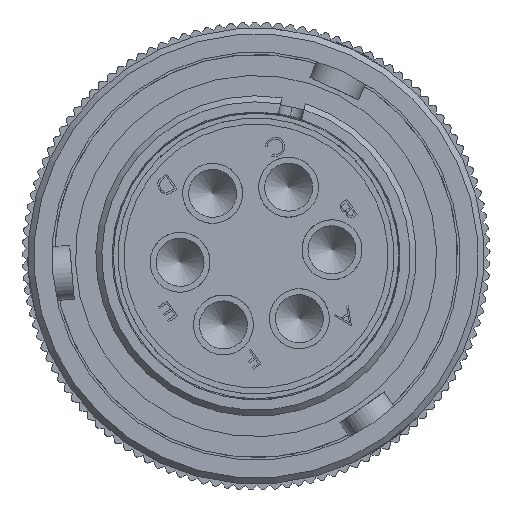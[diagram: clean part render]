
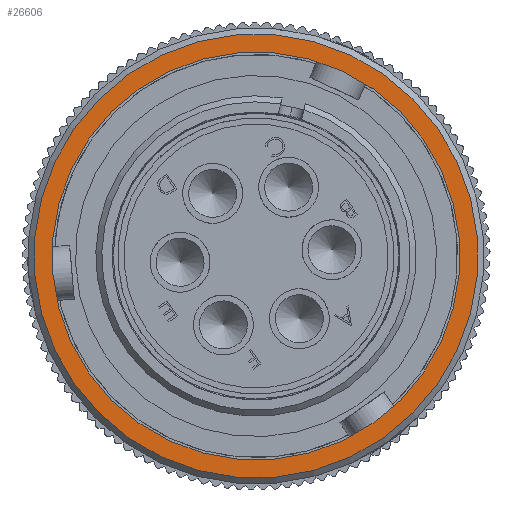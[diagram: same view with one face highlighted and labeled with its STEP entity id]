
A CAD part, left-side view. The second image highlights one B-rep face of the part: STEP entity #26606.
In plain terms, the highlighted planar face has unit normal (-1, 0, 0).
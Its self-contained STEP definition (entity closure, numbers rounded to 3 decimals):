
#1940 = CARTESIAN_POINT ( 'NONE',  ( -46.887, 0.989, 33.003 ) ) ;
#3533 = EDGE_LOOP ( 'NONE', ( #58631 ) ) ;
#8289 = PLANE ( 'NONE',  #43167 ) ;
#10079 = ORIENTED_EDGE ( 'NONE', *, *, #36838, .T. ) ;
#10331 = VERTEX_POINT ( 'NONE', #14897 ) ;
#14897 = CARTESIAN_POINT ( 'NONE',  ( -46.887, -15.777, 25.182 ) ) ;
#18453 = CARTESIAN_POINT ( 'NONE',  ( -46.887, 0.989, 33.003 ) ) ;
#18750 = DIRECTION ( 'NONE',  ( 0., -0.906, -0.423 ) ) ;
#19978 = CIRCLE ( 'NONE', #38832, 18.5 ) ;
#23856 = DIRECTION ( 'NONE',  ( 0., -0.906, -0.423 ) ) ;
#24635 = AXIS2_PLACEMENT_3D ( 'NONE', #28479, #53769, #23856 ) ;
#26606 = ADVANCED_FACE ( 'NONE', ( #37448, #43399 ), #8289, .F. ) ;
#26733 = EDGE_LOOP ( 'NONE', ( #10079 ) ) ;
#28479 = CARTESIAN_POINT ( 'NONE',  ( -46.887, 0.989, 33.003 ) ) ;
#29587 = CARTESIAN_POINT ( 'NONE',  ( -46.887, -14.418, 25.817 ) ) ;
#33002 = CIRCLE ( 'NONE', #24635, 17. ) ;
#36838 = EDGE_CURVE ( 'NONE', #10331, #10331, #19978, .T. ) ;
#37448 = FACE_OUTER_BOUND ( 'NONE', #26733, .T. ) ;
#37780 = DIRECTION ( 'NONE',  ( 1., 0., 0. ) ) ;
#38832 = AXIS2_PLACEMENT_3D ( 'NONE', #1940, #57405, #63007 ) ;
#43167 = AXIS2_PLACEMENT_3D ( 'NONE', #18453, #37780, #18750 ) ;
#43399 = FACE_BOUND ( 'NONE', #3533, .T. ) ;
#53769 = DIRECTION ( 'NONE',  ( 1., 0., 0. ) ) ;
#56741 = EDGE_CURVE ( 'NONE', #64434, #64434, #33002, .T. ) ;
#57405 = DIRECTION ( 'NONE',  ( -1., 0., 0. ) ) ;
#58631 = ORIENTED_EDGE ( 'NONE', *, *, #56741, .T. ) ;
#63007 = DIRECTION ( 'NONE',  ( 0., -0.906, -0.423 ) ) ;
#64434 = VERTEX_POINT ( 'NONE', #29587 ) ;
